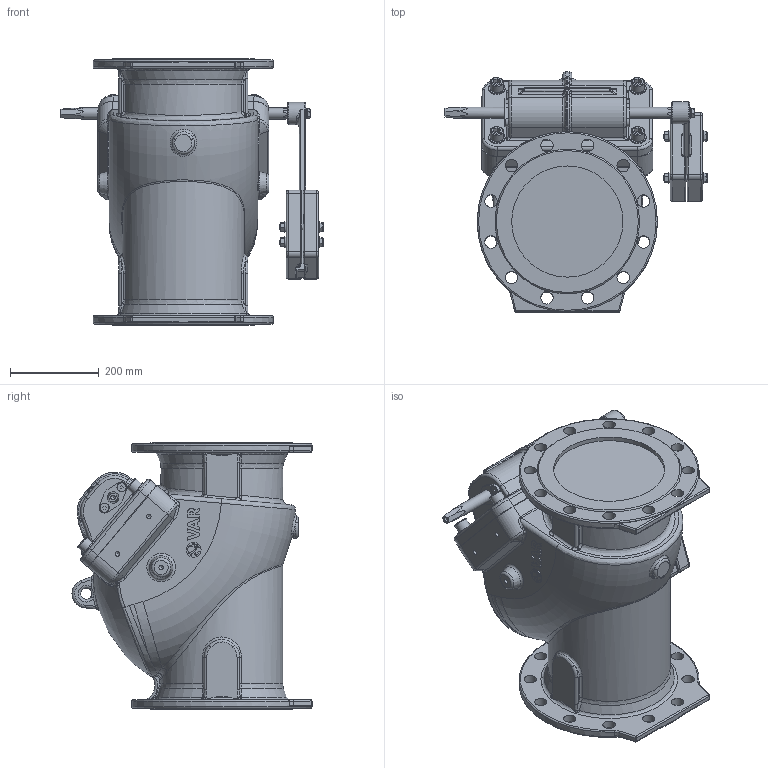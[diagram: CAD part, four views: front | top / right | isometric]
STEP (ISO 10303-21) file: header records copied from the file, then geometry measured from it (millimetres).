
FILE_DESCRIPTION(('STEP AP203'), '1');
FILE_NAME('VAR LIMU-STOP Îáðàòíûé êëàïàí DN 250 PN 16 c ðû÷àãîì è ïðîòèâîâåñîì', '2026-06-28T08:29:12', (' '), (' '), 'C3D Converter', 'C3D Toolkit', '');
FILE_SCHEMA(('CONFIG_CONTROL_DESIGN'));
Length unit declared in the file: millimetre
Products named in the file (1): Admi0C102497dm5k
Bounding box: 589 x 539.48 x 600 mm (x, y, z)
Volume: 65467292 mm3; surface area: 1513715.6 mm2
Topology: 1 solids, 15 shells, 1249 faces, 3168 edges, 1977 vertices
Faces by surface type: plane 392, cylinder 300, bspline 203, extrusion 150, torus 104, cone 66, sphere 34
Full cylindrical faces by diameter (mm): 10 x4, 10.106 x8, 11 x4, 11.053 x3, 12 x6, 13 x5, 17.2 x3, 20 x8, 21 x4, 24 x5, 25 x3, 26 x2, 28 x24, 30 x4, 33.237 x1, 37 x4, 50 x1, 250 x2, 405 x2
Entity records: 75320 total; most frequent: CARTESIAN_POINT 38981, ORIENTED_EDGE 5860, DIRECTION 4723, EDGE_CURVE 2930, VERTEX_POINT 1928, AXIS2_PLACEMENT_3D 1749, EDGE_LOOP 1546, FACE_BOUND 1401
